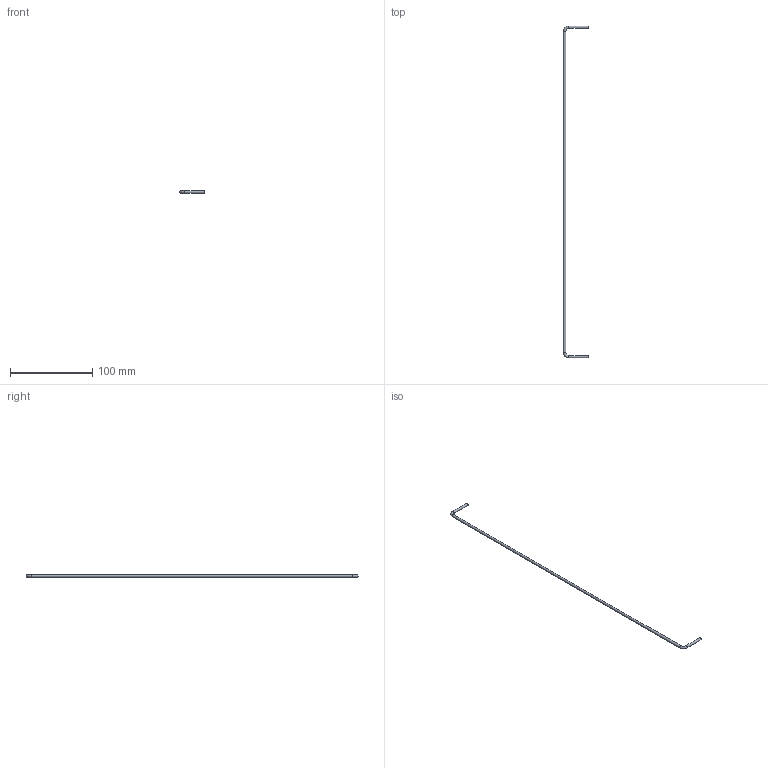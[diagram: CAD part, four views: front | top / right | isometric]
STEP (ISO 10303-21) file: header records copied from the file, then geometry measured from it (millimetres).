
FILE_DESCRIPTION (( 'STEP AP203' ), '1' );
FILE_NAME ('Tringle.STEP', '2026-06-24T07:29:51', ( '' ), ( '' ), 'SwSTEP 2.0', 'SolidWorks 2024', '' );
FILE_SCHEMA (( 'CONFIG_CONTROL_DESIGN' ));
Length unit declared in the file: millimetre
Products named in the file (1): Tringle
Bounding box: 30.5 x 403 x 3 mm (x, y, z)
Volume: 3207.1 mm3; surface area: 4290.2 mm2
Topology: 1 solids, 1 shells, 7 faces, 11 edges, 6 vertices
Faces by surface type: cylinder 3, torus 2, plane 2
Full cylindrical faces by diameter (mm): 3 x3
Entity records: 209 total; most frequent: DIRECTION 28, CARTESIAN_POINT 20, AXIS2_PLACEMENT_3D 14, ORIENTED_EDGE 12, FACE_OUTER_BOUND 12, EDGE_LOOP 12, PERSON_AND_ORGANIZATION 8, ADVANCED_FACE 7
